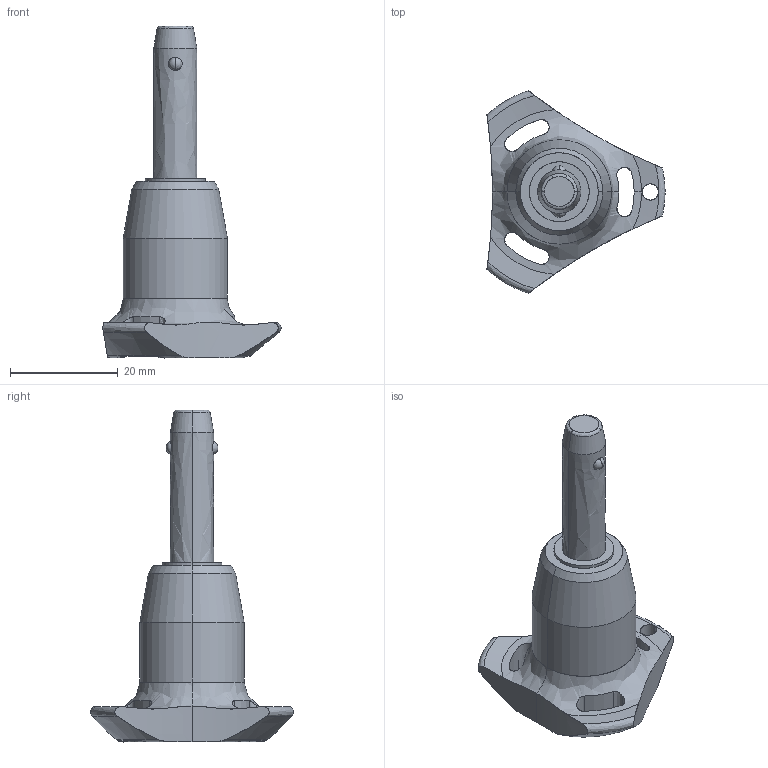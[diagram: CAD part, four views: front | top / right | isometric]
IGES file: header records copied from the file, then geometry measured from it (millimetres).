
Start section: SolidWorks IGES file using analytic representation for surfaces
Global section: file name: C:\Users\ianosborn\Desktop\QR1734_v2\QR1734_v2_20251113_IGES\QR1734.M08-020-S.igs; native system: SolidWorks 2019; preprocessor: SolidWorks 2019; author: IanOsborn; date: 251112.142001; units: millimetre
Bounding box: 33 x 37.51 x 61.5 mm (x, y, z)
Surface area: 4557.2 mm2 (no closed solid volume)
Topology: 0 solids, 0 shells, 65 faces, 1274 edges, 1270 vertices
Faces by surface type: revolution 50, bspline 15
